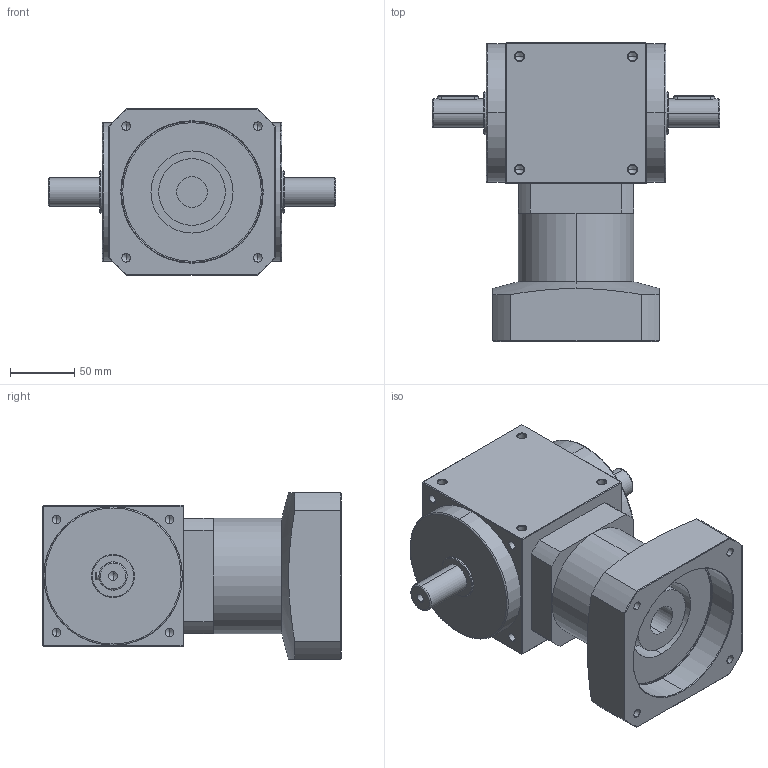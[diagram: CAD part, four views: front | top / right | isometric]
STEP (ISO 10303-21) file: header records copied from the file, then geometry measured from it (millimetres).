
FILE_DESCRIPTION (( 'STEP AP214' ), '1' );
FILE_NAME ('AT110-FL1-005 24-110-145-M8.STEP', '2020-11-10T05:43:10', ( '微软用户' ), ( '微软中国' ), 'SwSTEP 2.0', 'SolidWorks 2014', '' );
FILE_SCHEMA (( 'AUTOMOTIVE_DESIGN' ));
Length unit declared in the file: millimetre
Products named in the file (2): AT110-FL1-005 24-110-145-M8
Bounding box: 224 x 233 x 130 mm (x, y, z)
Volume: 2607574.1 mm3; surface area: 178394.9 mm2
Topology: 2 solids, 2 shells, 278 faces, 700 edges, 390 vertices
Faces by surface type: cylinder 128, cone 76, plane 66, bspline 8
Entity records: 11015 total; most frequent: CARTESIAN_POINT 2008, ORIENTED_EDGE 1296, DIRECTION 1268, EDGE_CURVE 648, AXIS2_PLACEMENT_3D 486, VERTEX_POINT 390, EDGE_LOOP 318, VECTOR 296
